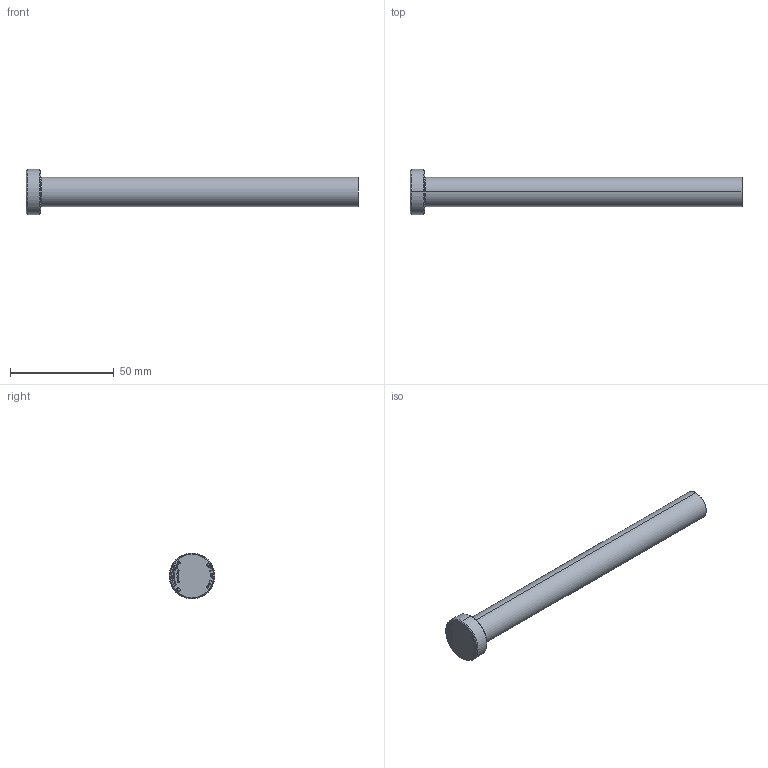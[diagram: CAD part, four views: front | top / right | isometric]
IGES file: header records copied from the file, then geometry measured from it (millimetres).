
Start section: SolidWorks IGES file using analytic representation for surfaces
Global section: file name: D:\TRIVECTOR\2026\08_Agosto\PR - PINO DE RETORNO (CATÁLOGO)\PR140160.IGS; native system: SolidWorks 2024; preprocessor: SolidWorks 2024; author: Usuario; date: 260822.114841; units: millimetre
Bounding box: 160 x 22 x 22 mm (x, y, z)
Surface area: 7941.3 mm2 (no closed solid volume)
Topology: 0 solids, 0 shells, 391 faces, 3900 edges, 3900 vertices
Faces by surface type: bspline 373, revolution 18
